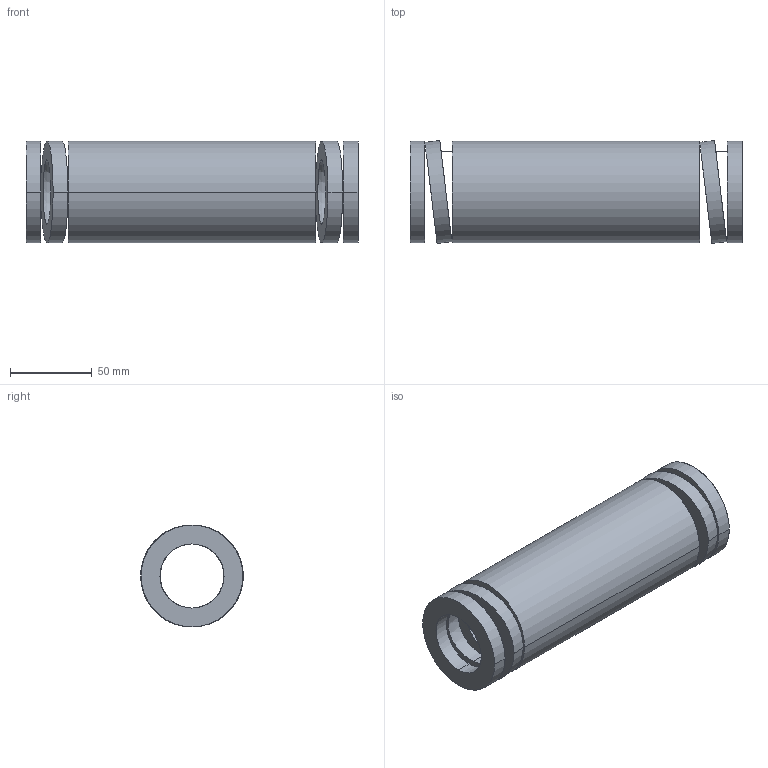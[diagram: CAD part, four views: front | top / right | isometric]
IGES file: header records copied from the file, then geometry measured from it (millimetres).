
Start section: START RECORD GO HERE.
Global section: file name: 392-B63-203.igs; native system: DASSAULT SYSTEMES CATIA V5 R20 - www.3ds.com; preprocessor: CATIA Version 5 Release 20 ; author: Utente; organization: NB04-ASUS; date: 20210813.134437; units: millimetre
Bounding box: 203 x 62.84 x 62.2 mm (x, y, z)
Surface area: 78069.5 mm2 (no closed solid volume)
Topology: 0 solids, 0 shells, 38 faces, 184 edges, 184 vertices
Faces by surface type: revolution 28, plane 10
